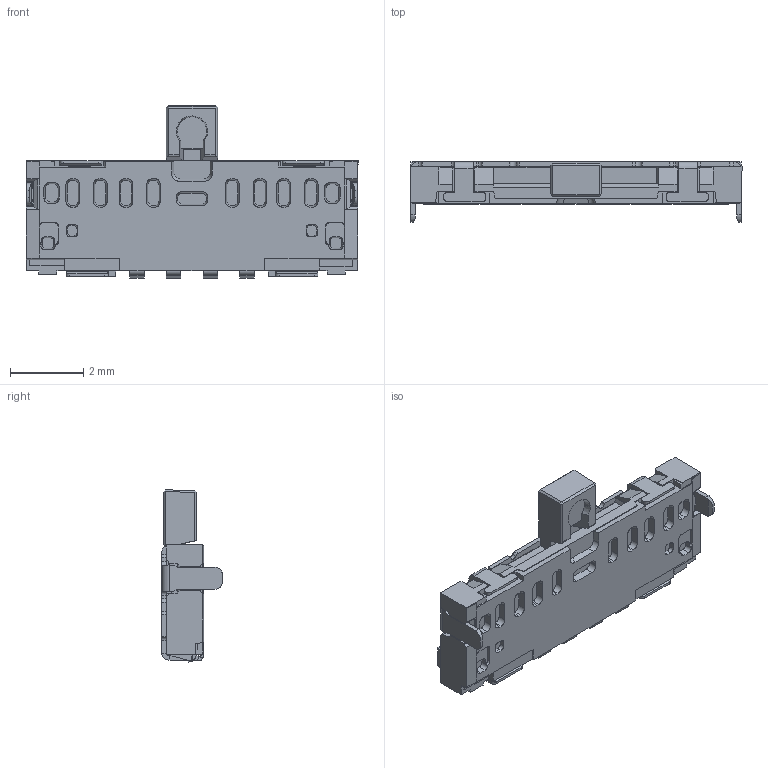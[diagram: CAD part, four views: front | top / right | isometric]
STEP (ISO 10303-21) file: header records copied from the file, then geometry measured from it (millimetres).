
FILE_DESCRIPTION (( 'STEP AP214' ), '1' );
FILE_NAME ('SSAG230100.STEP', '2011-04-22T06:45:50', ( ' ' ), ( '' ), 'SwSTEP 2.0', 'SolidWorks 2007', '' );
FILE_SCHEMA (( 'AUTOMOTIVE_DESIGN' ));
Length unit declared in the file: millimetre
Products named in the file (1): SSAG230100
Bounding box: 9.05 x 1.65 x 4.7 mm (x, y, z)
Volume: 30.5 mm3; surface area: 122 mm2
Topology: 1 solids, 1 shells, 705 faces, 1953 edges, 1261 vertices
Faces by surface type: plane 530, cylinder 153, cone 20, bspline 2
Entity records: 30299 total; most frequent: CARTESIAN_POINT 5186, ORIENTED_EDGE 3906, DIRECTION 3163, EDGE_CURVE 1953, VECTOR 1469, LINE 1469, VERTEX_POINT 1261, AXIS2_PLACEMENT_3D 847
